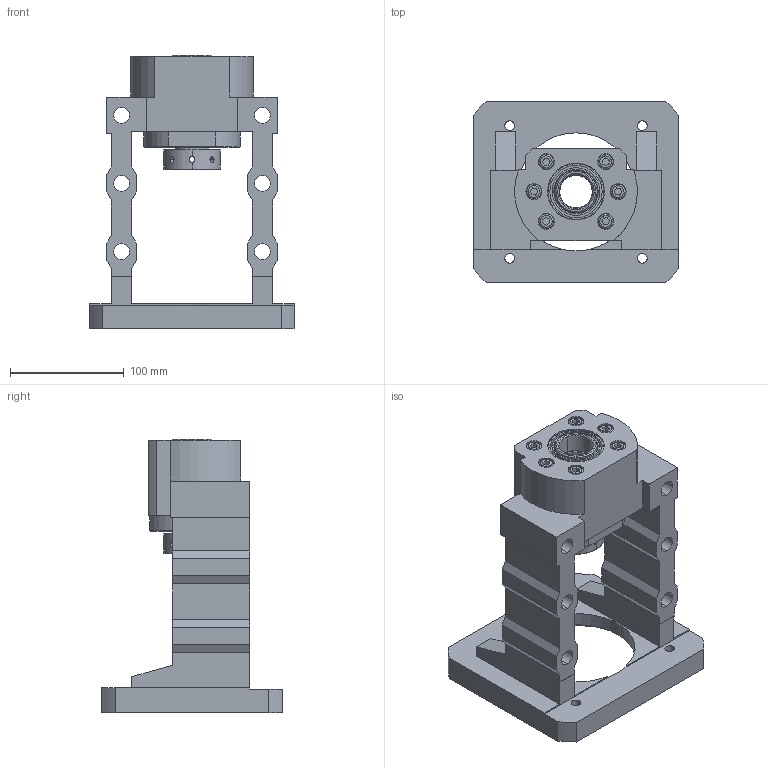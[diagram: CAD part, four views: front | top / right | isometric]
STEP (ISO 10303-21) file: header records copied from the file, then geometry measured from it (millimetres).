
FILE_DESCRIPTION (( 'STEP AP203' ), '1' );
FILE_NAME ('MBCK30-I²Õ¦X¥ó.STEP', '2024-09-03T02:01:22', ( '' ), ( '' ), 'SwSTEP 2.0', 'SolidWorks 2018', '' );
FILE_SCHEMA (( 'CONFIG_CONTROL_DESIGN' ));
Length unit declared in the file: millimetre
Products named in the file (1): MBCK30-I組合件
Bounding box: 180 x 160 x 241 mm (x, y, z)
Surface area: 214977.9 mm2 (no closed solid volume)
Topology: 0 solids, 21 shells, 333 faces, 903 edges, 587 vertices
Faces by surface type: plane 137, cylinder 128, cone 42, torus 26
Entity records: 11354 total; most frequent: CARTESIAN_POINT 2744, DIRECTION 1858, ORIENTED_EDGE 1635, EDGE_CURVE 895, AXIS2_PLACEMENT_3D 697, VERTEX_POINT 587, VECTOR 464, LINE 464
